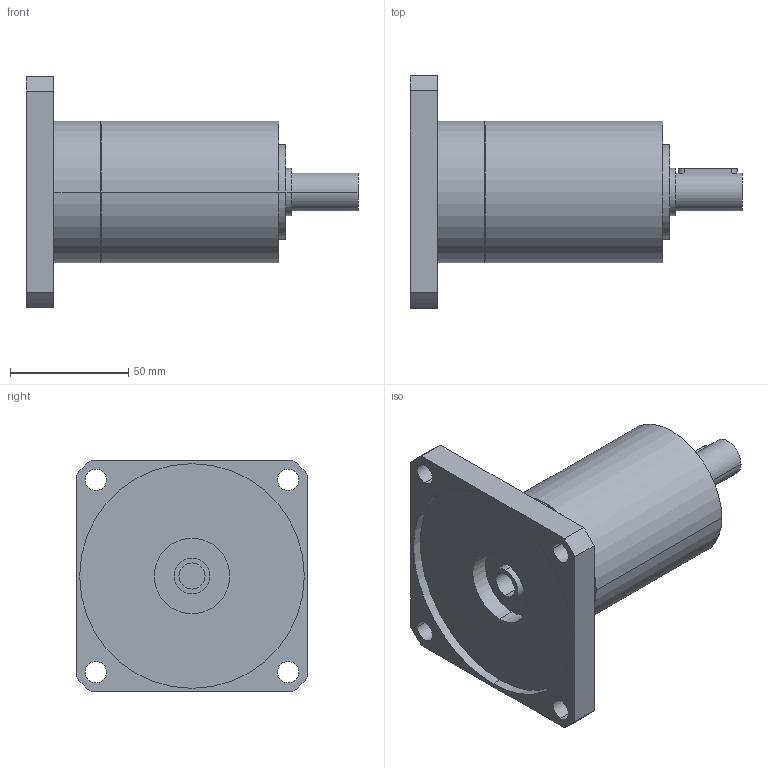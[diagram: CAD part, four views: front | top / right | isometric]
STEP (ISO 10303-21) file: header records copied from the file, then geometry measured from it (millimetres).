
FILE_DESCRIPTION(('CoCreate Modeling STEP Export'),'2;1');
FILE_NAME('GPR75_ig-9-12-16-20-24-30-36_16_B14_11_P08.stp','2014-08-25T16:01:39',(''),(''),'CoCreate Modeling STEP processor for AP214 (Solid Model)','CoCreate Modeling 16.00C 25-Feb-2009 (C) Parametric Technology GmbH','');
FILE_SCHEMA(('AUTOMOTIVE_DESIGN { 1 0 10303 214 1 1 1 1 }'));
Length unit declared in the file: millimetre
Products named in the file (2): GPR75_ig-9-12-16-20-24-30-36_16_B14_11_P08
Assembly tree (1 placements, depth 2):
  GPR75_ig-9-12-16-20-24-30-36_16_B14_11_P08
    GPR75_ig-9-12-16-20-24-30-36_16_B14_11_P08
Bounding box: 140.4 x 98 x 98 mm (x, y, z)
Volume: 350308.2 mm3; surface area: 48010.6 mm2
Topology: 1 solids, 1 shells, 70 faces, 189 edges, 133 vertices
Faces by surface type: cylinder 42, plane 22, cone 6
Entity records: 1944 total; most frequent: ORIENTED_EDGE 374, CARTESIAN_POINT 361, DIRECTION 262, EDGE_CURVE 187, VERTEX_POINT 133, AXIS2_PLACEMENT_3D 98, EDGE_LOOP 92, FACE_OUTER_BOUND 70
